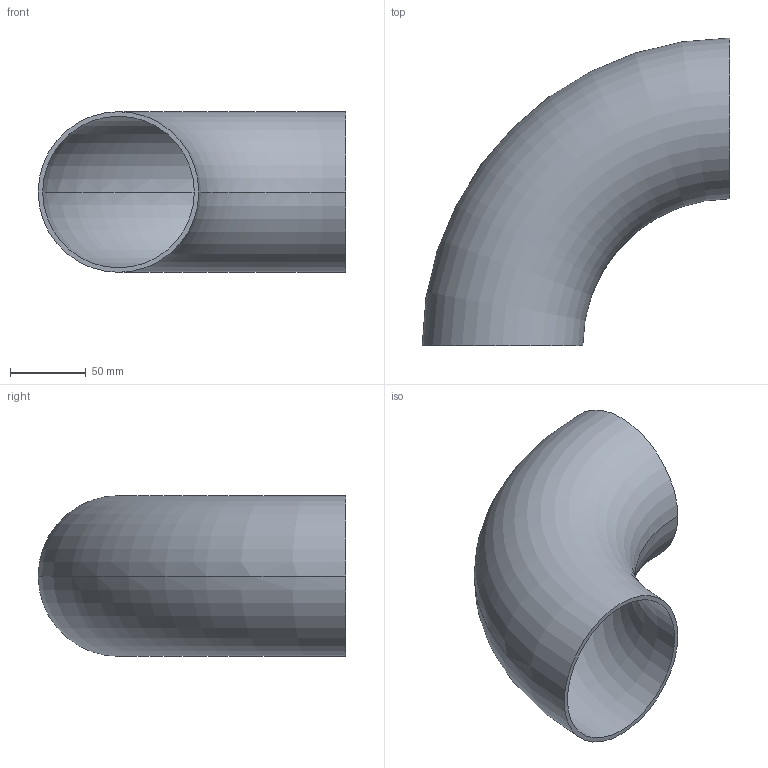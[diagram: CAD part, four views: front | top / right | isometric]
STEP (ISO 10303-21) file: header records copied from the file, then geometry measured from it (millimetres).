
FILE_DESCRIPTION (( 'STEP AP203' ), '1' );
FILE_NAME ('OT212-100-106x3_OSTP.step', '2020-12-16T02:43:55', ( '' ), ( '' ), 'SwSTEP 2.0', 'SolidWorks 2014', '' );
FILE_SCHEMA (( 'CONFIG_CONTROL_DESIGN' ));
Length unit declared in the file: millimetre
Products named in the file (1): OT212-100-106x3_OSTP
Bounding box: 203 x 203 x 106 mm (x, y, z)
Volume: 228728.1 mm3; surface area: 154426.9 mm2
Topology: 1 solids, 1 shells, 6 faces, 12 edges, 8 vertices
Faces by surface type: torus 4, plane 2
Entity records: 249 total; most frequent: DIRECTION 38, CARTESIAN_POINT 27, ORIENTED_EDGE 24, AXIS2_PLACEMENT_3D 19, EDGE_CURVE 12, CIRCLE 12, VERTEX_POINT 8, PERSON_AND_ORGANIZATION 8
